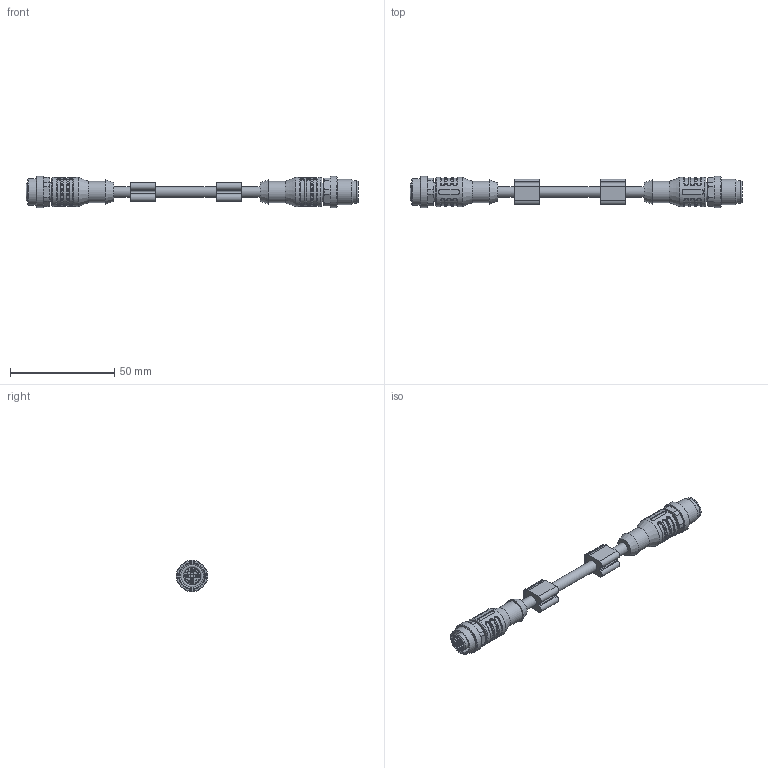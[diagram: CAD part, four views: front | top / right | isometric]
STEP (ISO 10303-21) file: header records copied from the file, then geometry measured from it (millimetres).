
FILE_DESCRIPTION(/* description */ (''),/* implementation_level */ '2;1');
FILE_NAME(/* name */ 'C:\#Vault-WorkDir\Konstruktions-Dokumente\Projekte\Zubehör allgemein\153-13647_L8_L4-xM-PUR.stp',/* time_stamp */ '2019-11-06T12:22:22+01:00',/* author */ ('SensoPart'),/* organization */ ('SensoPart'),/* preprocessor_version */ 'ST-DEVELOPER v17',/* originating_system */ 'Autodesk Inventor 2018',/* authorisation */ '');
FILE_SCHEMA (('AUTOMOTIVE_DESIGN { 1 0 10303 214 3 1 1 }'));
Length unit declared in the file: millimetre
Products named in the file (1): GH-ENG-0030465
Bounding box: 158.97 x 15 x 15 mm (x, y, z)
Volume: 12996 mm3; surface area: 7720.1 mm2
Topology: 1 solids, 1 shells, 619 faces, 1564 edges, 1014 vertices
Faces by surface type: plane 218, cylinder 163, bspline 148, torus 54, cone 28, sphere 8
Full cylindrical faces by diameter (mm): 0.8 x8, 0.85 x8, 1.15 x4, 5.2 x3, 8.3 x1, 8.7 x2, 10.2 x2, 10.5 x1, 10.8 x1, 10.95 x1, 12 x1, 12.3 x1, 12.8 x1, 14 x2, 15 x2
Entity records: 28109 total; most frequent: CARTESIAN_POINT 13705, ORIENTED_EDGE 3112, DIRECTION 2816, EDGE_CURVE 1556, AXIS2_PLACEMENT_3D 1075, VERTEX_POINT 1014, EDGE_LOOP 700, LINE 666
